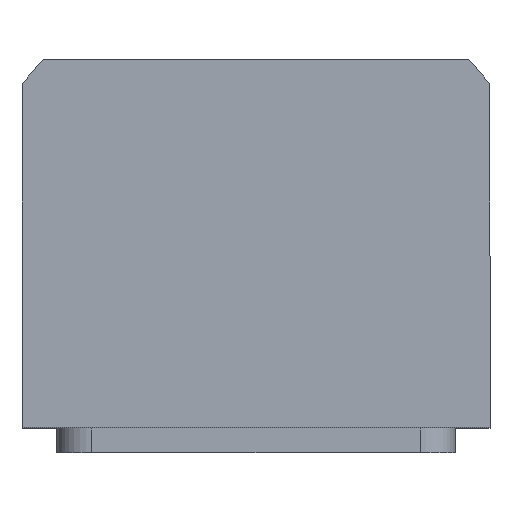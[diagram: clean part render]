
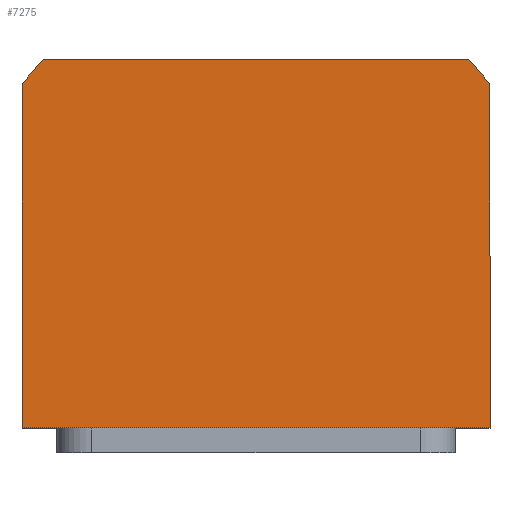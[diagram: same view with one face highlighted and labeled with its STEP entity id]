
A CAD part, top view. The second image highlights one B-rep face of the part: STEP entity #7275.
In plain terms, the highlighted planar face has unit normal (0, 0, 1).
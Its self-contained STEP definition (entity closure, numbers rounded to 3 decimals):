
#229 = PLANE ( 'NONE',  #10251 ) ;
#662 = VERTEX_POINT ( 'NONE', #2244 ) ;
#980 = ORIENTED_EDGE ( 'NONE', *, *, #2316, .T. ) ;
#1038 = CARTESIAN_POINT ( 'NONE',  ( 0., 0., 50. ) ) ;
#1146 = EDGE_CURVE ( 'NONE', #6540, #9697, #7706, .T. ) ;
#1148 = CARTESIAN_POINT ( 'NONE',  ( 47., 34.832, 50. ) ) ;
#1488 = ORIENTED_EDGE ( 'NONE', *, *, #5436, .T. ) ;
#1707 = ORIENTED_EDGE ( 'NONE', *, *, #6779, .T. ) ;
#1951 = DIRECTION ( 'NONE',  ( 1., 0., 0. ) ) ;
#2244 = CARTESIAN_POINT ( 'NONE',  ( 42.688, 40., 50. ) ) ;
#2316 = EDGE_CURVE ( 'NONE', #3124, #9503, #3451, .T. ) ;
#2338 = VECTOR ( 'NONE', #9580, 1000. ) ;
#2508 = DIRECTION ( 'NONE',  ( 0., 0., 1. ) ) ;
#3124 = VERTEX_POINT ( 'NONE', #5278 ) ;
#3165 = LINE ( 'NONE', #3461, #2338 ) ;
#3171 = EDGE_LOOP ( 'NONE', ( #1488, #4192, #1707, #9619, #3685, #980 ) ) ;
#3237 = DIRECTION ( 'NONE',  ( 0., 0., 1. ) ) ;
#3422 = CARTESIAN_POINT ( 'NONE',  ( 0., 0., 50. ) ) ;
#3451 = LINE ( 'NONE', #7998, #7828 ) ;
#3461 = CARTESIAN_POINT ( 'NONE',  ( 47., -34., 50. ) ) ;
#3685 = ORIENTED_EDGE ( 'NONE', *, *, #10284, .T. ) ;
#4143 = DIRECTION ( 'NONE',  ( 1., 0., 0. ) ) ;
#4192 = ORIENTED_EDGE ( 'NONE', *, *, #1146, .T. ) ;
#4570 = CARTESIAN_POINT ( 'NONE',  ( 47., -34., 50. ) ) ;
#4955 = VECTOR ( 'NONE', #10101, 1000. ) ;
#4964 = VECTOR ( 'NONE', #11126, 1000. ) ;
#5278 = CARTESIAN_POINT ( 'NONE',  ( -47., 34.832, 50. ) ) ;
#5436 = EDGE_CURVE ( 'NONE', #9503, #6540, #3165, .T. ) ;
#5844 = CARTESIAN_POINT ( 'NONE',  ( -42.688, 40., 50. ) ) ;
#6259 = DIRECTION ( 'NONE',  ( 0., -1., 0. ) ) ;
#6332 = CIRCLE ( 'NONE', #8628, 58.5 ) ;
#6540 = VERTEX_POINT ( 'NONE', #4570 ) ;
#6779 = EDGE_CURVE ( 'NONE', #9697, #662, #7262, .T. ) ;
#6893 = CARTESIAN_POINT ( 'NONE',  ( 47., 34.832, 50. ) ) ;
#7109 = DIRECTION ( 'NONE',  ( 0., 0., 1. ) ) ;
#7262 = CIRCLE ( 'NONE', #8880, 58.5 ) ;
#7275 = ADVANCED_FACE ( 'NONE', ( #9845 ), #229, .T. ) ;
#7492 = CARTESIAN_POINT ( 'NONE',  ( -47., -34., 50. ) ) ;
#7569 = LINE ( 'NONE', #5844, #4955 ) ;
#7592 = EDGE_CURVE ( 'NONE', #662, #8271, #7569, .T. ) ;
#7706 = LINE ( 'NONE', #1148, #4964 ) ;
#7828 = VECTOR ( 'NONE', #6259, 1000. ) ;
#7998 = CARTESIAN_POINT ( 'NONE',  ( -47., -34., 50. ) ) ;
#8271 = VERTEX_POINT ( 'NONE', #8291 ) ;
#8291 = CARTESIAN_POINT ( 'NONE',  ( -42.688, 40., 50. ) ) ;
#8478 = CARTESIAN_POINT ( 'NONE',  ( 0., 0., 50. ) ) ;
#8628 = AXIS2_PLACEMENT_3D ( 'NONE', #3422, #2508, #11157 ) ;
#8880 = AXIS2_PLACEMENT_3D ( 'NONE', #8478, #3237, #4143 ) ;
#9503 = VERTEX_POINT ( 'NONE', #7492 ) ;
#9580 = DIRECTION ( 'NONE',  ( 1., 0., 0. ) ) ;
#9619 = ORIENTED_EDGE ( 'NONE', *, *, #7592, .T. ) ;
#9697 = VERTEX_POINT ( 'NONE', #6893 ) ;
#9845 = FACE_OUTER_BOUND ( 'NONE', #3171, .T. ) ;
#10101 = DIRECTION ( 'NONE',  ( -1., 0., 0. ) ) ;
#10251 = AXIS2_PLACEMENT_3D ( 'NONE', #1038, #7109, #1951 ) ;
#10284 = EDGE_CURVE ( 'NONE', #8271, #3124, #6332, .T. ) ;
#11126 = DIRECTION ( 'NONE',  ( 0., 1., 0. ) ) ;
#11157 = DIRECTION ( 'NONE',  ( 1., 0., 0. ) ) ;
